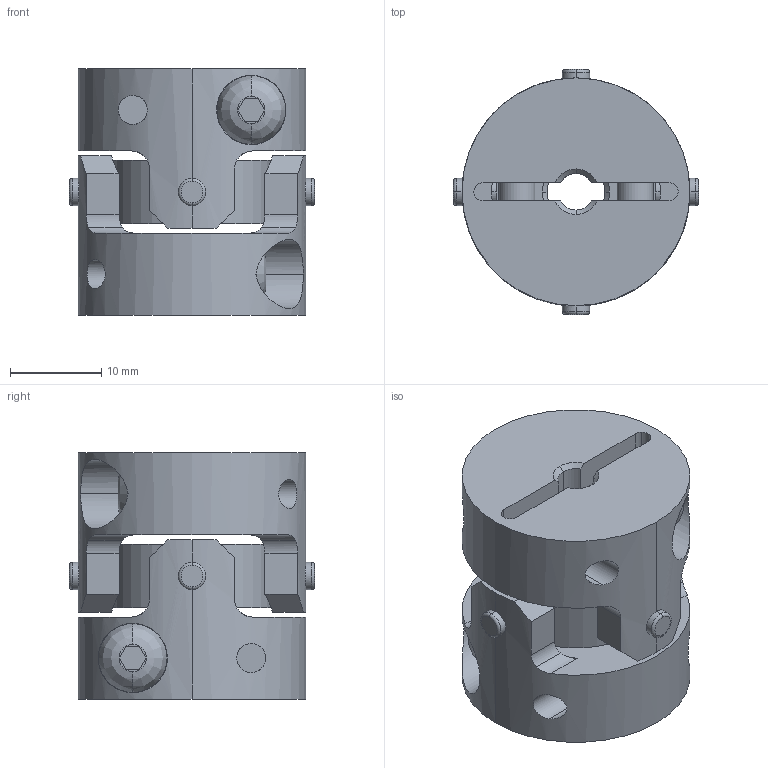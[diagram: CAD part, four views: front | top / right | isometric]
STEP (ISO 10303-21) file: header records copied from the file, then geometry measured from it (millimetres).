
FILE_DESCRIPTION((''),'2;1');
FILE_NAME('UA-25C-4×6.35.stp','2013-11-12T14:17:39',(''),(''),'AutoCAD STEP 2000i','AutoCAD 2000i',', , ');
FILE_SCHEMA(('CONFIG_CONTROL_DESIGN'));
Length unit declared in the file: millimetre
Products named in the file (6): UA-25C-5×5; 忣兜1; UA-2502-D05-1; BTN-M4; UA-2502-D05; UA25-SEN
Assembly tree (6 placements, depth 3):
  UA-25C-5×5
    忣兜1
    UA-2502-D05-1
      BTN-M4
    UA-2502-D05
      BTN-M4
    UA25-SEN
Bounding box: 26.89 x 26.89 x 27 mm (x, y, z)
Volume: 9450.4 mm3; surface area: 6503 mm2
Topology: 1 solids, 1 shells, 206 faces, 554 edges, 364 vertices
Faces by surface type: cylinder 96, plane 78, cone 16, bspline 8, torus 8
Entity records: 8291 total; most frequent: CARTESIAN_POINT 2975, ORIENTED_EDGE 1108, DIRECTION 1064, EDGE_CURVE 554, AXIS2_PLACEMENT_3D 409, VERTEX_POINT 364, VECTOR 246, LINE 246
